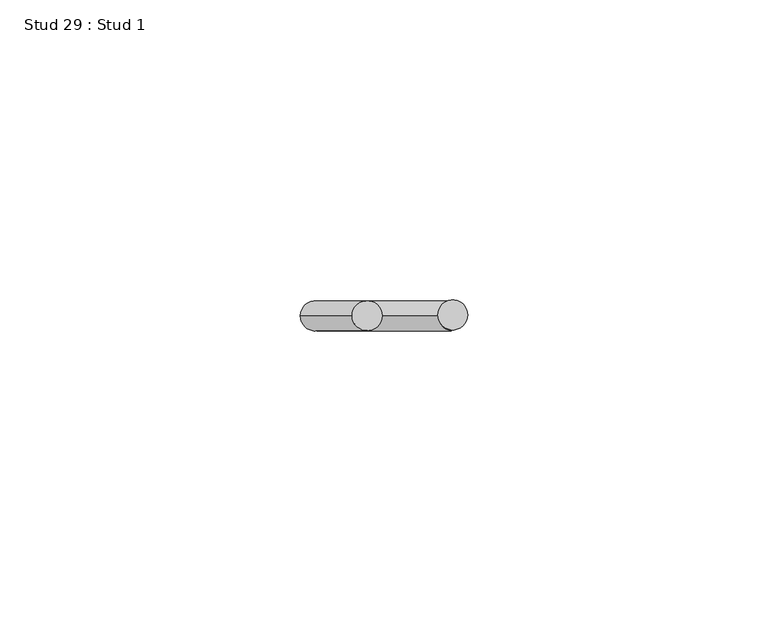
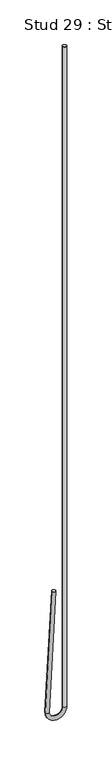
"""IFC4 building model written with IfcOpenShell, lengths in millimetres: proxy geometry, Stud 29 : Stud 1."""

import ifcopenshell
import ifcopenshell.guid

model = None  # the IFC model being written
_history = None  # IfcOwnerHistory: only IFC2X3 demands one
_inside = {}  # id of a spatial element -> (the spatial element, [elements in it])
_under = {}  # id of a project, library or spatial element -> (it, [spatial elements below it])
_declared = {}  # id of a project -> (the project, [libraries it declares])
_typed = {}  # id of a type object -> (the type object, [elements of that type])
_made_of = {}  # id of a material, layer set ... -> (it, [elements and type objects made of it])


def new_model(schema):
    """Start an empty IFC model of exactly this schema.

    Asked for "IFC4X3", IfcOpenShell would pick the latest addendum, in which some entities
    have other attributes; the version numbers below select the first issue.
    IFC2X3 requires an IfcOwnerHistory on every rooted entity: one is made here for all.
    """
    global model, _history
    if schema == "IFC4X3":
        model = ifcopenshell.file(schema_version=(4, 3, 0, 0))
    else:
        model = ifcopenshell.file(schema=schema)
    _inside.clear()
    _under.clear()
    _declared.clear()
    _typed.clear()
    _made_of.clear()
    _history = None
    if model.schema == "IFC2X3":
        org = make("IfcOrganization", Name="unknown")
        user = make(
            "IfcPersonAndOrganization",
            ThePerson=make("IfcPerson", FamilyName="unknown"),
            TheOrganization=org,
        )
        app = make(
            "IfcApplication",
            ApplicationDeveloper=org,
            Version="unknown",
            ApplicationFullName="unknown",
            ApplicationIdentifier="unknown",
        )
        _history = make(
            "IfcOwnerHistory",
            OwningUser=user,
            OwningApplication=app,
            ChangeAction="ADDED",
            CreationDate=0,
        )
    return model


def make(cls, **values):
    """One entity of the class cls with the attributes given. An attribute that is None is left unset."""
    return model.create_entity(
        cls, **{name: value for name, value in values.items() if value is not None}
    )


def rooted(cls, **values):
    """An entity with a GlobalId (a new one), such as an element, a storey or a relation."""
    return make(cls, GlobalId=ifcopenshell.guid.new(), OwnerHistory=_history, **values)


def si_unit(unit_type, name, prefix=None):
    """IfcSIUnit, for example si_unit("LENGTHUNIT", "METRE", prefix="MILLI")."""
    return make("IfcSIUnit", UnitType=unit_type, Prefix=prefix, Name=name)


def assignment(units):
    """IfcUnitAssignment: the units of a project."""
    return None if units is None else make("IfcUnitAssignment", Units=units)


def point(xyz):
    """IfcCartesianPoint."""
    return None if xyz is None else make("IfcCartesianPoint", Coordinates=xyz)


def direction(xyz):
    """IfcDirection."""
    return None if xyz is None else make("IfcDirection", DirectionRatios=xyz)


def frame(location, z_axis=None, x_axis=None):
    """IfcAxis2Placement3D, a coordinate frame: its origin and axes. An axis left out is left unset."""
    return make(
        "IfcAxis2Placement3D",
        Location=point(location),
        Axis=direction(z_axis),
        RefDirection=direction(x_axis),
    )


def origin():
    """The frame at (0, 0, 0) with its axes left unset."""
    return frame((0.0, 0.0, 0.0))


def place(relative_to, where):
    """IfcLocalPlacement: puts the frame where relative to a parent placement (None: the world)."""
    return make(
        "IfcLocalPlacement", PlacementRelTo=relative_to, RelativePlacement=where
    )


def context(
    kind, dimensions, precision=None, world=None, true_north=None, identifier=None
):
    """IfcGeometricRepresentationContext, for example the 3D "Model" context."""
    return make(
        "IfcGeometricRepresentationContext",
        ContextIdentifier=identifier,
        ContextType=kind,
        CoordinateSpaceDimension=dimensions,
        Precision=precision,
        WorldCoordinateSystem=world,
        TrueNorth=true_north,
    )


def project(units=None, contexts=None):
    """IfcProject with its units and contexts."""
    return rooted(
        "IfcProject",
        Name="project",
        RepresentationContexts=contexts,
        UnitsInContext=assignment(units),
    )


def spatial(cls, under=None, at=None, **own):
    """A site, building, storey or space (cls), placed at a placement, below another one or the project."""
    s = rooted(cls, ObjectPlacement=at, **own)
    if under is not None:
        _under.setdefault(under.id(), (under, []))[1].append(s)
    return s


def circle_curve(where, radius):
    """IfcCircle in the frame where."""
    return make("IfcCircle", Position=where, Radius=radius)


def ellipse_curve(where, semi_axis1, semi_axis2):
    """IfcEllipse in the frame where."""
    return make(
        "IfcEllipse", Position=where, SemiAxis1=semi_axis1, SemiAxis2=semi_axis2
    )


def trimmed(basis, trim1, trim2, sense, master):
    """IfcTrimmedCurve: the piece of a basis curve between two trims."""
    return make(
        "IfcTrimmedCurve",
        BasisCurve=basis,
        Trim1=trim1,
        Trim2=trim2,
        SenseAgreement=sense,
        MasterRepresentation=master,
    )


def shape(context_of_items, identifier, shape_type, items):
    """IfcShapeRepresentation: the items that make up one representation, for example the "Body"."""
    return make(
        "IfcShapeRepresentation",
        ContextOfItems=context_of_items,
        RepresentationIdentifier=identifier,
        RepresentationType=shape_type,
        Items=items,
    )


def source(mapping_origin, context_of_items, identifier, shape_type, items):
    """IfcRepresentationMap: a shape defined once, which mapped items show again and again."""
    return make(
        "IfcRepresentationMap",
        MappingOrigin=mapping_origin,
        MappedRepresentation=shape(context_of_items, identifier, shape_type, items),
    )


def transform(
    local_origin,
    x_axis=None,
    y_axis=None,
    z_axis=None,
    scale=None,
    scale2=None,
    scale3=None,
    uniform=True,
):
    """IfcCartesianTransformationOperator3D, or its non-uniform kind. x_axis, y_axis, z_axis: its Axis1, 2, 3."""
    if uniform:
        return make(
            "IfcCartesianTransformationOperator3D",
            Axis1=direction(x_axis),
            Axis2=direction(y_axis),
            LocalOrigin=point(local_origin),
            Scale=scale,
            Axis3=direction(z_axis),
        )
    return make(
        "IfcCartesianTransformationOperator3DnonUniform",
        Axis1=direction(x_axis),
        Axis2=direction(y_axis),
        LocalOrigin=point(local_origin),
        Scale=scale,
        Axis3=direction(z_axis),
        Scale2=scale2,
        Scale3=scale3,
    )


def mapped(mapping_source, mapping_target):
    """IfcMappedItem: shows the shape of a source again, moved by a transform."""
    return make(
        "IfcMappedItem", MappingSource=mapping_source, MappingTarget=mapping_target
    )


def made_of(thing, what):
    """Note that an element or type object is made of a material, layer set ...; save() writes the relation."""
    if what is not None:
        _made_of.setdefault(what.id(), (what, []))[1].append(thing)
    return thing


def element(
    cls,
    number,
    at=None,
    inside=None,
    cuts=None,
    type_object=None,
    material=None,
    context=None,
    identifier="Body",
    shape_type=None,
    held_by="IfcProductDefinitionShape",
    body=None,
    shapes=None,
    **own,
):
    """One element of the class cls, such as IfcWall. Its Tag is "e" and its number.

    at: its placement. inside: the storey or other place that contains it. cuts: it is an
    opening in that element (IfcRelVoidsElement). A single representation is given by context,
    identifier, shape_type and body (its items); several are given by shapes. held_by: the class
    of the entity that holds the representations. save() writes the other relations.
    """
    e = rooted(cls, Tag="e%d" % number, ObjectPlacement=at, **own)
    if body is not None:
        shapes = [shape(context, identifier, shape_type, body)]
    if shapes is not None:
        e.Representation = make(held_by, Representations=shapes)
    if inside is not None:
        _inside.setdefault(inside.id(), (inside, []))[1].append(e)
    if cuts is not None:
        rooted(
            "IfcRelVoidsElement", RelatingBuildingElement=cuts, RelatedOpeningElement=e
        )
    if type_object is not None:
        _typed.setdefault(type_object.id(), (type_object, []))[1].append(e)
    return made_of(e, material)


def aggregate(whole, parts):
    """IfcRelAggregates: a whole, such as a stair, and the parts it consists of."""
    return rooted("IfcRelAggregates", RelatingObject=whole, RelatedObjects=parts)


def save(model, path):
    """Write the relations noted so far, then the file.

    IfcRelAggregates (storeys below a building ...), IfcRelContainedInSpatialStructure (elements
    in a storey), IfcRelDefinesByType, IfcRelAssociatesMaterial and IfcRelDeclares: one each for
    every whole, place, type object, material and project.
    """
    for whole, parts in _under.values():
        aggregate(whole, parts)
    for where, things in _inside.values():
        rooted(
            "IfcRelContainedInSpatialStructure",
            RelatedElements=things,
            RelatingStructure=where,
        )
    for kind, things in _typed.values():
        rooted("IfcRelDefinesByType", RelatedObjects=things, RelatingType=kind)
    for what, things in _made_of.values():
        rooted("IfcRelAssociatesMaterial", RelatedObjects=things, RelatingMaterial=what)
    for by, libraries in _declared.values():
        rooted("IfcRelDeclares", RelatingContext=by, RelatedDefinitions=libraries)
    model.write(path)


def plane_surface(at):
    """IfcPlane: the flat surface through the origin of the frame at, square to its z axis."""
    return make("IfcPlane", Position=at)


def cylinder_surface(at, radius):
    """IfcCylindricalSurface: all points at the distance radius from the z axis of the frame at."""
    return make("IfcCylindricalSurface", Position=at, Radius=radius)


def revolved_surface(curve, axis_point, axis_direction):
    """IfcSurfaceOfRevolution: the curve turned about the line through axis_point along axis_direction."""
    return make(
        "IfcSurfaceOfRevolution",
        SweptCurve=make("IfcArbitraryOpenProfileDef", ProfileType="CURVE", Curve=curve),
        AxisPosition=make("IfcAxis1Placement", Location=point(axis_point), Axis=direction(axis_direction)),
    )


def advanced_brep(points, edges, surfaces, faces):
    """IfcAdvancedBrep: a solid bounded by faces that lie on surfaces and meet in shared edges.

    An edge is (start, end): straight between two places in points (the first is 0);
    or (start, end, curve); or (start, end, curve, False) where it runs against its curve.
    A face is (place in surfaces, loops), or (place, loops, False) where it looks against
    its surface's normal. A loop lists edges by number (the first is 1), with a minus sign
    where the edge is run from its end to its start. The first loop is the outer one.
    """
    corners = [point(p) for p in points]
    vertices = [make("IfcVertexPoint", VertexGeometry=c) for c in corners]
    made = []
    for start, end, *more in edges:
        made.append(
            make(
                "IfcEdgeCurve",
                EdgeStart=vertices[start],
                EdgeEnd=vertices[end],
                EdgeGeometry=more[0] if more else make("IfcPolyline", Points=[corners[start], corners[end]]),
                SameSense=more[1] if len(more) > 1 else True,
            )
        )
    hull = []
    for where, loops, *sense in faces:
        bounds = []
        for j, loop in enumerate(loops):
            ring = [make("IfcOrientedEdge", EdgeElement=made[abs(k) - 1], Orientation=k > 0) for k in loop]
            bounds.append(
                make(
                    "IfcFaceOuterBound" if j == 0 else "IfcFaceBound",
                    Bound=make("IfcEdgeLoop", EdgeList=ring),
                    Orientation=True,
                )
            )
        hull.append(make("IfcAdvancedFace", Bounds=bounds, FaceSurface=surfaces[where], SameSense=sense[0] if sense else True))
    return make("IfcAdvancedBrep", Outer=make("IfcClosedShell", CfsFaces=hull))


def stud_29_stud_1_5b82ace0(model_context):
    return source(origin(), model_context, "Body", "AdvancedBrep", [
        advanced_brep(
        [(-13440.3532788, 10839.5191481, 3640.800192), (-13435.3601311, 10839.5191481, 3640.5385122), (-13448.9939451, 10839.5191481, 3475.9264558), (-13444.0007975, 10839.5191481, 3475.664776), (-13426.0920812, 10839.5191481, 3475.7956159), (-13421.0920812, 10839.5191481, 3475.7956159), (-13421.0920812, 10839.5191481, 4390.1956159), (-13426.0920812, 10839.5191481, 4390.1956159)],
        [
            (0, 1, circle_curve(frame((-13437.8567049, 10839.5191481, 3640.6693521), z_axis=(0.05233595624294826, 0.0, 0.9986295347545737), x_axis=(0.9986295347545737, 0.0, -0.05233595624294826)), 2.5)),
            (1, 0, circle_curve(frame((-13437.8567049, 10839.5191481, 3640.6693521), z_axis=(0.05233595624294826, 0.0, 0.9986295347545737), x_axis=(0.9986295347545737, 0.0, -0.05233595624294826)), 2.5)),
            (0, 2),
            (2, 3, circle_curve(frame((-13446.4973713, 10839.5191481, 3475.7956159), z_axis=(0.05233595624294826, 0.0, 0.9986295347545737), x_axis=(0.9986295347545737, 0.0, -0.05233595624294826)), 2.5)),
            (3, 1),
            (3, 2, circle_curve(frame((-13446.4973713, 10839.5191481, 3475.7956159), z_axis=(0.05233595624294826, 0.0, 0.9986295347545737), x_axis=(0.9986295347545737, 0.0, -0.05233595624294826)), 2.5)),
            (4, 3, circle_curve(frame((-13435.0447263, 10839.5191481, 3475.7956159), z_axis=(0.0, 1.0, 0.0), x_axis=(-1.0, 0.0, 0.0)), 8.952645)),
            (2, 5, circle_curve(frame((-13435.0447263, 10839.5191481, 3475.7956159), z_axis=(0.0, -1.0, 0.0), x_axis=(-1.0, 0.0, 0.0)), 13.952645)),
            (5, 4, circle_curve(frame((-13423.5920812, 10839.5191481, 3475.7956159), z_axis=(0.0, 0.0, -1.0), x_axis=(-1.0, 0.0, 0.0)), 2.5)),
            (4, 5, circle_curve(frame((-13423.5920812, 10839.5191481, 3475.7956159), z_axis=(0.0, 0.0, -1.0), x_axis=(-1.0, 0.0, 0.0)), 2.5)),
            (6, 7, circle_curve(frame((-13423.5920812, 10839.5191481, 4390.1956159), z_axis=(0.0, 0.0, 1.0), x_axis=(-1.0, 0.0, 0.0)), 2.5)),
            (7, 6, circle_curve(frame((-13423.5920812, 10839.5191481, 4390.1956159), z_axis=(0.0, 0.0, 1.0), x_axis=(-1.0, 0.0, 0.0)), 2.5)),
            (5, 6),
            (7, 4),
        ],
        [
            plane_surface(frame((-13437.8567049, 11433.2441481, 3640.6693521), z_axis=(0.05233595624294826, 0.0, 0.9986295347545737), x_axis=(0.0, -1.0, 0.0))),
            cylinder_surface(frame((-13437.8567049, 10839.5191481, 3640.6693521), z_axis=(0.05233595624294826, 0.0, 0.9986295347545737), x_axis=(0.9986295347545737, 0.0, -0.05233595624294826)), 2.5),
            revolved_surface(trimmed(ellipse_curve(frame((-13446.4973713, 10839.5191481, 3475.7956159), z_axis=(0.0, 0.0, 1.0), x_axis=(1.0, 0.0, 0.0)), 2.5, 2.5), [point((-13448.9973713, 10839.5191481, 3475.7956159))], [point((-13443.9973713, 10839.5191481, 3475.7956159))], True, "CARTESIAN"), (-13435.0447263, 11433.2441481, 3475.7956159), (0.0, -1.0, 0.0)),
            revolved_surface(trimmed(ellipse_curve(frame((-13446.4973713, 10839.5191481, 3475.7956159), z_axis=(0.0, 0.0, 1.0), x_axis=(1.0, 0.0, 0.0)), 2.5, 2.5), [point((-13443.9973713, 10839.5191481, 3475.7956159))], [point((-13448.9973713, 10839.5191481, 3475.7956159))], True, "CARTESIAN"), (-13435.0447263, 11433.2441481, 3475.7956159), (0.0, -1.0, 0.0)),
            plane_surface(frame((-13423.5920812, 11433.2441481, 4390.1956159), z_axis=(0.0, 0.0, 1.0), x_axis=(0.0, -1.0, 0.0))),
            cylinder_surface(frame((-13423.5920812, 10839.5191481, 3475.7956159), z_axis=(0.0, 0.0, -1.0), x_axis=(-1.0, 0.0, 0.0)), 2.5),
        ],
        [
            (0, [[1, 2]]),
            (1, [[-1, 3, 4, 5]]),
            (1, [[-2, -5, 6, -3]]),
            (2, [[7, -4, 8, 9]]),
            (3, [[-8, -6, -7, 10]]),
            (4, [[11, 12]]),
            (5, [[-9, 13, -12, 14]]),
            (5, [[-10, -14, -11, -13]]),
        ],
    ),
    ])


if __name__ == "__main__":
    model = new_model("IFC4")
    model_context = context("Model", 3, world=origin())
    ifc_project = project(units=[si_unit("LENGTHUNIT", "METRE", prefix="MILLI")], contexts=[model_context])
    site = spatial("IfcSite", under=ifc_project)
    building = spatial("IfcBuilding", under=site)
    placement = place(None, origin())
    stud_29_stud_1_shape = stud_29_stud_1_5b82ace0(model_context)
    element("IfcBuildingElementProxy", 1, Name="Stud 29 : Stud 1", ObjectType="Stud 29 : Stud 1", at=placement, inside=building, context=model_context, shape_type="MappedRepresentation", body=[
        mapped(stud_29_stud_1_shape, transform((0.0, 0.0, 0.0), x_axis=(1.0, 0.0, 0.0), y_axis=(0.0, 1.0, 0.0), z_axis=(0.0, 0.0, 1.0))),
    ])
    save(model, "model.ifc")
